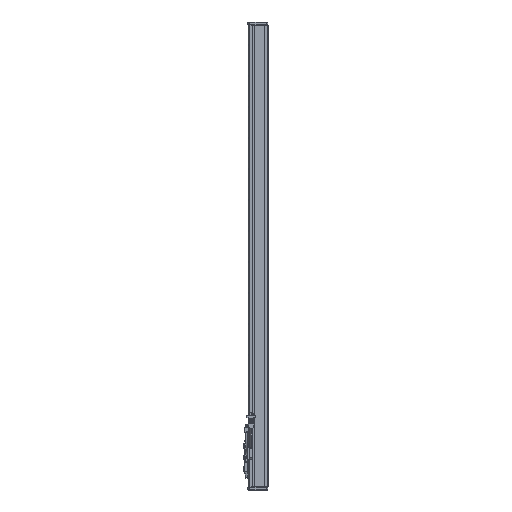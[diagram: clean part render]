
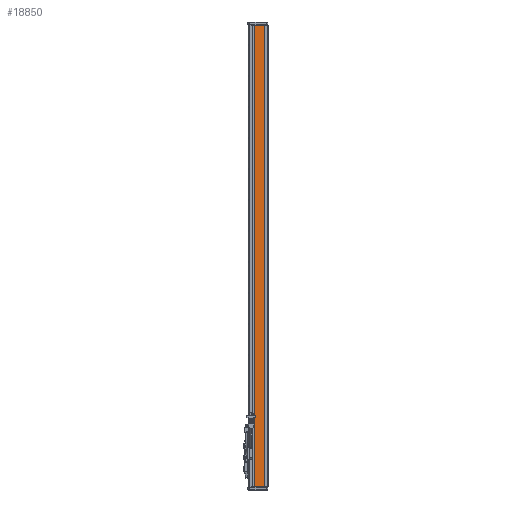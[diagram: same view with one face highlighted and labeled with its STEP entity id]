
A CAD part, left-side view. The second image highlights one B-rep face of the part: STEP entity #18850.
In plain terms, the highlighted planar face has unit normal (-1, 0, 0).
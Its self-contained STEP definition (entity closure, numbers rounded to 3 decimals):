
#144 = PLANE('',#145);
#145 = AXIS2_PLACEMENT_3D('',#146,#147,#148);
#146 = CARTESIAN_POINT('',(-36.5,59.6,1490.));
#147 = DIRECTION('',(0.,0.,1.));
#148 = DIRECTION('',(1.,0.,-0.));
#809 = PLANE('',#810);
#810 = AXIS2_PLACEMENT_3D('',#811,#812,#813);
#811 = CARTESIAN_POINT('',(-36.5,59.6,0.));
#812 = DIRECTION('',(0.,0.,1.));
#813 = DIRECTION('',(1.,0.,-0.));
#12105 = VERTEX_POINT('',#12106);
#12106 = CARTESIAN_POINT('',(-40.5,43.6,1490.));
#12120 = PLANE('',#12121);
#12121 = AXIS2_PLACEMENT_3D('',#12122,#12123,#12124);
#12122 = CARTESIAN_POINT('',(-40.,43.6,1490.));
#12123 = DIRECTION('',(0.,1.,0.));
#12124 = DIRECTION('',(0.,-0.,1.));
#12132 = EDGE_CURVE('',#12105,#12133,#12135,.T.);
#12133 = VERTEX_POINT('',#12134);
#12134 = CARTESIAN_POINT('',(-40.5,11.,1490.));
#12135 = SURFACE_CURVE('',#12136,(#12140,#12147),.PCURVE_S1.);
#12136 = LINE('',#12137,#12138);
#12137 = CARTESIAN_POINT('',(-40.5,19.,1490.));
#12138 = VECTOR('',#12139,1.);
#12139 = DIRECTION('',(0.,-1.,0.));
#12140 = PCURVE('',#144,#12141);
#12141 = DEFINITIONAL_REPRESENTATION('',(#12142),#12146);
#12142 = LINE('',#12143,#12144);
#12143 = CARTESIAN_POINT('',(-4.,-40.6));
#12144 = VECTOR('',#12145,1.);
#12145 = DIRECTION('',(0.,-1.));
#12146 = ( GEOMETRIC_REPRESENTATION_CONTEXT(2) 
PARAMETRIC_REPRESENTATION_CONTEXT() REPRESENTATION_CONTEXT('2D SPACE',''
  ) );
#12147 = PCURVE('',#12148,#12153);
#12148 = PLANE('',#12149);
#12149 = AXIS2_PLACEMENT_3D('',#12150,#12151,#12152);
#12150 = CARTESIAN_POINT('',(-40.5,19.,1490.));
#12151 = DIRECTION('',(1.,0.,-0.));
#12152 = DIRECTION('',(-0.,0.,-1.));
#12153 = DEFINITIONAL_REPRESENTATION('',(#12154),#12158);
#12154 = LINE('',#12155,#12156);
#12155 = CARTESIAN_POINT('',(0.,0.));
#12156 = VECTOR('',#12157,1.);
#12157 = DIRECTION('',(-0.,-1.));
#12158 = ( GEOMETRIC_REPRESENTATION_CONTEXT(2) 
PARAMETRIC_REPRESENTATION_CONTEXT() REPRESENTATION_CONTEXT('2D SPACE',''
  ) );
#12176 = PLANE('',#12177);
#12177 = AXIS2_PLACEMENT_3D('',#12178,#12179,#12180);
#12178 = CARTESIAN_POINT('',(-41.,10.5,1490.));
#12179 = DIRECTION('',(0.707,-0.707,0.));
#12180 = DIRECTION('',(0.707,0.707,0.));
#13522 = VERTEX_POINT('',#13523);
#13523 = CARTESIAN_POINT('',(-40.5,11.,0.));
#13544 = EDGE_CURVE('',#13545,#13522,#13547,.T.);
#13545 = VERTEX_POINT('',#13546);
#13546 = CARTESIAN_POINT('',(-40.5,43.6,0.));
#13547 = SURFACE_CURVE('',#13548,(#13552,#13559),.PCURVE_S1.);
#13548 = LINE('',#13549,#13550);
#13549 = CARTESIAN_POINT('',(-40.5,19.,0.));
#13550 = VECTOR('',#13551,1.);
#13551 = DIRECTION('',(0.,-1.,0.));
#13552 = PCURVE('',#809,#13553);
#13553 = DEFINITIONAL_REPRESENTATION('',(#13554),#13558);
#13554 = LINE('',#13555,#13556);
#13555 = CARTESIAN_POINT('',(-4.,-40.6));
#13556 = VECTOR('',#13557,1.);
#13557 = DIRECTION('',(0.,-1.));
#13558 = ( GEOMETRIC_REPRESENTATION_CONTEXT(2) 
PARAMETRIC_REPRESENTATION_CONTEXT() REPRESENTATION_CONTEXT('2D SPACE',''
  ) );
#13559 = PCURVE('',#12148,#13560);
#13560 = DEFINITIONAL_REPRESENTATION('',(#13561),#13565);
#13561 = LINE('',#13562,#13563);
#13562 = CARTESIAN_POINT('',(1490.,0.));
#13563 = VECTOR('',#13564,1.);
#13564 = DIRECTION('',(-0.,-1.));
#13565 = ( GEOMETRIC_REPRESENTATION_CONTEXT(2) 
PARAMETRIC_REPRESENTATION_CONTEXT() REPRESENTATION_CONTEXT('2D SPACE',''
  ) );
#16295 = EDGE_CURVE('',#12133,#13522,#16296,.T.);
#16296 = SURFACE_CURVE('',#16297,(#16301,#16308),.PCURVE_S1.);
#16297 = LINE('',#16298,#16299);
#16298 = CARTESIAN_POINT('',(-40.5,11.,1490.));
#16299 = VECTOR('',#16300,1.);
#16300 = DIRECTION('',(-0.,-0.,-1.));
#16301 = PCURVE('',#12176,#16302);
#16302 = DEFINITIONAL_REPRESENTATION('',(#16303),#16307);
#16303 = LINE('',#16304,#16305);
#16304 = CARTESIAN_POINT('',(0.707,0.));
#16305 = VECTOR('',#16306,1.);
#16306 = DIRECTION('',(0.,-1.));
#16307 = ( GEOMETRIC_REPRESENTATION_CONTEXT(2) 
PARAMETRIC_REPRESENTATION_CONTEXT() REPRESENTATION_CONTEXT('2D SPACE',''
  ) );
#16308 = PCURVE('',#12148,#16309);
#16309 = DEFINITIONAL_REPRESENTATION('',(#16310),#16314);
#16310 = LINE('',#16311,#16312);
#16311 = CARTESIAN_POINT('',(-0.,-8.));
#16312 = VECTOR('',#16313,1.);
#16313 = DIRECTION('',(1.,-0.));
#16314 = ( GEOMETRIC_REPRESENTATION_CONTEXT(2) 
PARAMETRIC_REPRESENTATION_CONTEXT() REPRESENTATION_CONTEXT('2D SPACE',''
  ) );
#18850 = ADVANCED_FACE('',(#18851),#12148,.F.);
#18851 = FACE_BOUND('',#18852,.T.);
#18852 = EDGE_LOOP('',(#18853,#18854,#18855,#18856));
#18853 = ORIENTED_EDGE('',*,*,#13544,.T.);
#18854 = ORIENTED_EDGE('',*,*,#16295,.F.);
#18855 = ORIENTED_EDGE('',*,*,#12132,.F.);
#18856 = ORIENTED_EDGE('',*,*,#18857,.F.);
#18857 = EDGE_CURVE('',#13545,#12105,#18858,.T.);
#18858 = SURFACE_CURVE('',#18859,(#18863,#18870),.PCURVE_S1.);
#18859 = LINE('',#18860,#18861);
#18860 = CARTESIAN_POINT('',(-40.5,43.6,1490.));
#18861 = VECTOR('',#18862,1.);
#18862 = DIRECTION('',(0.,0.,1.));
#18863 = PCURVE('',#12148,#18864);
#18864 = DEFINITIONAL_REPRESENTATION('',(#18865),#18869);
#18865 = LINE('',#18866,#18867);
#18866 = CARTESIAN_POINT('',(0.,24.6));
#18867 = VECTOR('',#18868,1.);
#18868 = DIRECTION('',(-1.,0.));
#18869 = ( GEOMETRIC_REPRESENTATION_CONTEXT(2) 
PARAMETRIC_REPRESENTATION_CONTEXT() REPRESENTATION_CONTEXT('2D SPACE',''
  ) );
#18870 = PCURVE('',#12120,#18871);
#18871 = DEFINITIONAL_REPRESENTATION('',(#18872),#18876);
#18872 = LINE('',#18873,#18874);
#18873 = CARTESIAN_POINT('',(0.,-0.5));
#18874 = VECTOR('',#18875,1.);
#18875 = DIRECTION('',(1.,0.));
#18876 = ( GEOMETRIC_REPRESENTATION_CONTEXT(2) 
PARAMETRIC_REPRESENTATION_CONTEXT() REPRESENTATION_CONTEXT('2D SPACE',''
  ) );
